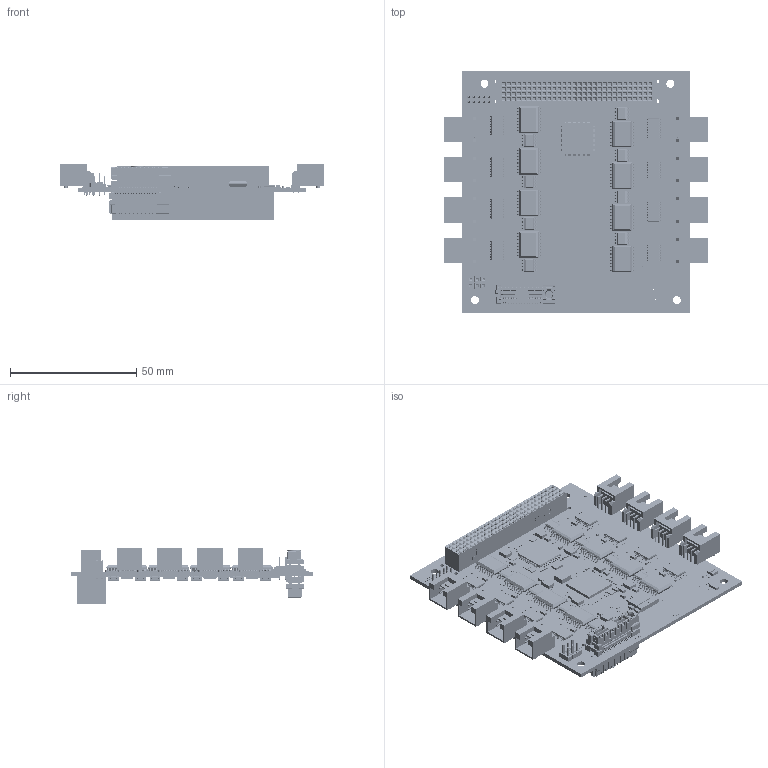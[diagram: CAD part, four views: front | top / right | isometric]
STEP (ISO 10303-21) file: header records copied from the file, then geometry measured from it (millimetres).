
FILE_DESCRIPTION((''),'2;1');
FILE_NAME('7110800-MAIN1_ASM','2015-01-27T',('user'),(''),'PRO/ENGINEER BY PARAMETRIC TECHNOLOGY CORPORATION, 2009360','PRO/ENGINEER BY PARAMETRIC TECHNOLOGY CORPORATION, 2009360','');
FILE_SCHEMA(('CONFIG_CONTROL_DESIGN'));
Products named in the file (101): 7110800_EMM-4_8EL-XT_REV_1_-904; SM0805LED_AC_1_2_1; TP30T_1_2_1; SM0402L_1_2_1; DIO_SOD-323_H1_1_P2_1_2_1; SM0603LED_AC_1_2_1; XTALECX-31B_1_2_1; DHVQFN20_1_2_1; CPC1014N; SOT23_H1_45_P5_1_2_1; SC70-6-39M_1_2_1; SOT23-6-57M_1_2_1; ISO7220-AD; RN_2012_P8_1_2_2; SOIC_W_H2_65_P16_1_2_3; TSSOP_6; CAP_1206_1_2_1; SM0402C_1_2_1; QFN4X7-38_1_2_1; IND4X4_H2_P2_1_2_1; CAP_1206_H1_8_1_2_1; CAP_0603-HT0_9_1_2_1; CAP_0603-HT0_9_IR_1_2_1; RP4-0402-18M_1_2_1; RES_0402_1_2_1; IND_0603-HT0_9_1_2_1; CAP_0402_1_2_1; S08B-PUDSS-1_1_2_1; HDR_2_54P_2X3__1_2_1; ETMM-XX-D-LC_15_POSITION_AN_AF0; ETMM-1XX-02-X-D-XX-XX-T-1S1_AF0; ETMM-1XX-02-X-D-XX-XX-T-1S1_AF1; ETMM-1XX-02-X-D-XX-XX-T-1S1_AF2; ETMM-1XX-02-X-D-XX-XX-T-1S1_AF3; ETMM-1XX-02-X-D-XX-XX-T-1S1_AF4; ETMM-1XX-02-X-D-XX-XX-T-1S1_AF5; ETMM-1XX-02-X-D-XX-XX-T-1S1_AF6; ETMM-1XX-02-X-D-XX-XX-T-1S1_AF7; ETMM-1XX-02-X-D-XX-XX-T-1S1_AF8; ETMM-1XX-02-X-D-XX-XX-T-1S1_AF9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
Assembly tree (533 placements, depth 5):
  7110800-MAIN1_ASM
    7110800_EMM-4_8EL-XT_REV_1_-916_ASM
      7110800_EMM-4_8EL-XT_REV_1_-904
      SM0805LED_AC_1_2_1
      TP30T_1_2_1  x39
      SM0402L_1_2_1  x2
      DIO_SOD-323_H1_1_P2_1_2_1
      SM0603LED_AC_1_2_1  x2
      XTALECX-31B_1_2_1
      DHVQFN20_1_2_1  x2
      CPC1014N  x8
      SOT23_H1_45_P5_1_2_1  x8
      SC70-6-39M_1_2_1  x8
      SOT23-6-57M_1_2_1  x8
      ISO7220-AD  x8
      RN_2012_P8_1_2_2  x16
      SOIC_W_H2_65_P16_1_2_3  x8
      TSSOP_6  x8
      CAP_1206_1_2_1  x2
      SM0402C_1_2_1  x2
      QFN4X7-38_1_2_1
      IND4X4_H2_P2_1_2_1
      CAP_1206_H1_8_1_2_1
      CAP_0603-HT0_9_1_2_1  x7
      CAP_0603-HT0_9_IR_1_2_1  x19
      RP4-0402-18M_1_2_1  x10
      RES_0402_1_2_1  x148
      IND_0603-HT0_9_1_2_1  x5
      CAP_0402_1_2_1  x135
      S08B-PUDSS-1_1_2_1  x8
      HDR_2_54P_2X3__1_2_1
      HDR_2_54P_2X5_P6_ASM_1_ASM_2_AS_ASM
        ETMM-105-02-X-D-TH-LC_ANY_AF0_A_ASM
          ETMM-XX-D-LC_15_POSITION_AN_AF0
          ETMM-1XX-02-X-D-XX-XX-T-1S1_AF0
          ETMM-1XX-02-X-D-XX-XX-T-1S1_AF1
          ETMM-1XX-02-X-D-XX-XX-T-1S1_AF2
          ETMM-1XX-02-X-D-XX-XX-T-1S1_AF3
          ETMM-1XX-02-X-D-XX-XX-T-1S1_AF4
          ETMM-1XX-02-X-D-XX-XX-T-1S1_AF5
          ETMM-1XX-02-X-D-XX-XX-T-1S1_AF6
          ETMM-1XX-02-X-D-XX-XX-T-1S1_AF7
          ETMM-1XX-02-X-D-XX-XX-T-1S1_AF8
          ETMM-1XX-02-X-D-XX-XX-T-1S1_AF9
      ASP-129637-08_1_2_3_ASM  x2
        MANIFOLD_SOLID_BREP_36628
        MANIFOLD_SOLID_BREP_36682
        MANIFOLD_SOLID_BREP_36736
        MANIFOLD_SOLID_BREP_37390
        MANIFOLD_SOLID_BREP_37540
        MANIFOLD_SOLID_BREP_37594
        MANIFOLD_SOLID_BREP_50521
        MANIFOLD_SOLID_BREP_50575
        MANIFOLD_SOLID_BREP_50629
        MANIFOLD_SOLID_BREP_50683
        MANIFOLD_SOLID_BREP_50737
        MANIFOLD_SOLID_BREP_50791
        MANIFOLD_SOLID_BREP_50845
        MANIFOLD_SOLID_BREP_51473
        MANIFOLD_SOLID_BREP_51545
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Bounding box: 104.84 x 95.89 x 22.1 mm (x, y, z)
Volume: 28424 mm3; surface area: 53430.4 mm2
Topology: 478 solids, 702 shells, 23278 faces, 70909 edges, 49608 vertices
Faces by surface type: plane 17936, cylinder 5184, extrusion 130, cone 12, torus 8, sphere 8
Entity records: 406770 total; most frequent: CARTESIAN_POINT 92243, ORIENTED_EDGE 63628, DIRECTION 60640, EDGE_CURVE 34959, VECTOR 28060, LINE 27930, VERTEX_POINT 24117, AXIS2_PLACEMENT_3D 16290
